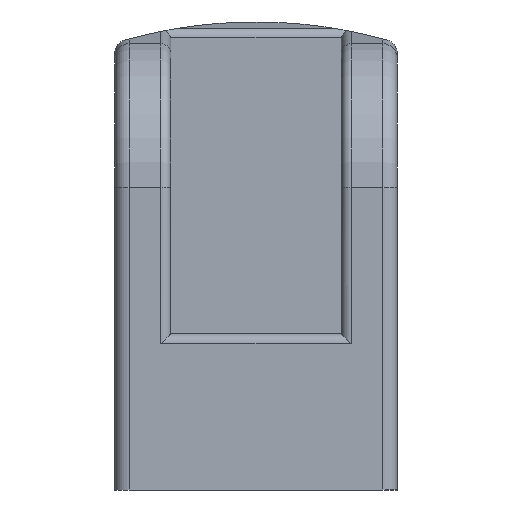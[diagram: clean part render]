
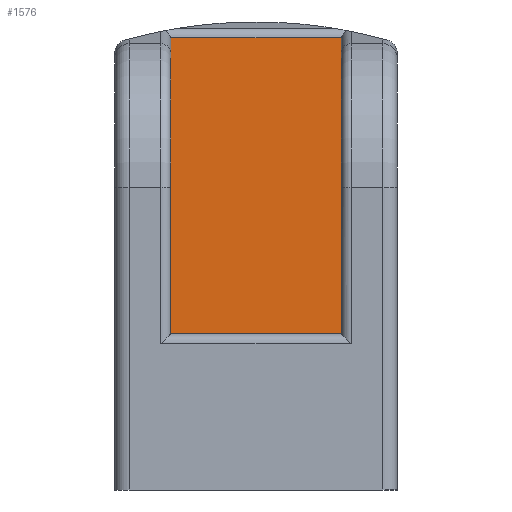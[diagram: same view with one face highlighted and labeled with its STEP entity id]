
A CAD part, front view. The second image highlights one B-rep face of the part: STEP entity #1576.
In plain terms, the highlighted planar face has unit normal (0, -1, 0).
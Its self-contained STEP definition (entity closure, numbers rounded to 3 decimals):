
#832=CARTESIAN_POINT('Vertex',(8.75,-72.,46.186)) ;
#835=CARTESIAN_POINT('Line Origine',(8.75,-72.,31.093)) ;
#839=CARTESIAN_POINT('Vertex',(8.75,-72.,16.)) ;
#997=CARTESIAN_POINT('Vertex',(-8.75,-72.,16.)) ;
#1000=CARTESIAN_POINT('Line Origine',(-8.75,-72.,31.093)) ;
#1004=CARTESIAN_POINT('Vertex',(-8.75,-72.,46.186)) ;
#1419=CARTESIAN_POINT('Line Origine',(0.,-72.,16.)) ;
#1538=CARTESIAN_POINT('Axis2P3D Location',(0.,-72.,54.956)) ;
#1543=CARTESIAN_POINT('Line Origine',(0.,-72.,46.362)) ;
#1547=CARTESIAN_POINT('Vertex',(8.765,-72.,46.362)) ;
#1549=CARTESIAN_POINT('Vertex',(-8.765,-72.,46.362)) ;
#1553=CARTESIAN_POINT('Control Point',(-8.75,-72.,46.186)) ;
#1554=CARTESIAN_POINT('Control Point',(-8.75,-72.,46.221)) ;
#1555=CARTESIAN_POINT('Control Point',(-8.752,-72.,46.257)) ;
#1556=CARTESIAN_POINT('Control Point',(-8.755,-72.,46.292)) ;
#1557=CARTESIAN_POINT('Control Point',(-8.759,-72.,46.327)) ;
#1558=CARTESIAN_POINT('Control Point',(-8.765,-72.,46.362)) ;
#1561=CARTESIAN_POINT('Control Point',(8.75,-72.,46.186)) ;
#1562=CARTESIAN_POINT('Control Point',(8.75,-72.,46.221)) ;
#1563=CARTESIAN_POINT('Control Point',(8.752,-72.,46.257)) ;
#1564=CARTESIAN_POINT('Control Point',(8.755,-72.,46.292)) ;
#1565=CARTESIAN_POINT('Control Point',(8.759,-72.,46.327)) ;
#1566=CARTESIAN_POINT('Control Point',(8.765,-72.,46.362)) ;
#836=DIRECTION('Vector Direction',(0.,0.,-1.)) ;
#1001=DIRECTION('Vector Direction',(0.,0.,-1.)) ;
#1420=DIRECTION('Vector Direction',(-1.,0.,0.)) ;
#1539=DIRECTION('Axis2P3D Direction',(0.,1.,0.)) ;
#1540=DIRECTION('Axis2P3D XDirection',(0.,0.,-1.)) ;
#1544=DIRECTION('Vector Direction',(-1.,0.,0.)) ;
#1541=AXIS2_PLACEMENT_3D('Plane Axis2P3D',#1538,#1539,#1540) ;
#1569=ORIENTED_EDGE('',*,*,#1551,.T.) ;
#1570=ORIENTED_EDGE('',*,*,#1559,.F.) ;
#1571=ORIENTED_EDGE('',*,*,#1006,.F.) ;
#1572=ORIENTED_EDGE('',*,*,#1423,.F.) ;
#1573=ORIENTED_EDGE('',*,*,#841,.T.) ;
#1574=ORIENTED_EDGE('',*,*,#1567,.F.) ;
#837=VECTOR('Line Direction',#836,1.) ;
#1002=VECTOR('Line Direction',#1001,1.) ;
#1421=VECTOR('Line Direction',#1420,1.) ;
#1545=VECTOR('Line Direction',#1544,1.) ;
#1576=ADVANCED_FACE('PartBody',(#1575),#1542,.F.) ;
#1552=B_SPLINE_CURVE_WITH_KNOTS('',5,(#1553,#1554,#1555,#1556,#1557,#1558),.UNSPECIFIED.,.F.,.U.,(6,6),(0.,0.251),.UNSPECIFIED.) ;
#1560=B_SPLINE_CURVE_WITH_KNOTS('',5,(#1561,#1562,#1563,#1564,#1565,#1566),.UNSPECIFIED.,.F.,.U.,(6,6),(0.,0.251),.UNSPECIFIED.) ;
#841=EDGE_CURVE('',#840,#833,#838,.F.) ;
#1006=EDGE_CURVE('',#998,#1005,#1003,.F.) ;
#1423=EDGE_CURVE('',#840,#998,#1422,.T.) ;
#1551=EDGE_CURVE('',#1548,#1550,#1546,.T.) ;
#1559=EDGE_CURVE('',#1005,#1550,#1552,.T.) ;
#1567=EDGE_CURVE('',#1548,#833,#1560,.F.) ;
#1568=EDGE_LOOP('',(#1569,#1570,#1571,#1572,#1573,#1574)) ;
#1575=FACE_OUTER_BOUND('',#1568,.T.) ;
#838=LINE('Line',#835,#837) ;
#1003=LINE('Line',#1000,#1002) ;
#1422=LINE('Line',#1419,#1421) ;
#1546=LINE('Line',#1543,#1545) ;
#1542=PLANE('',#1541) ;
#833=VERTEX_POINT('',#832) ;
#840=VERTEX_POINT('',#839) ;
#998=VERTEX_POINT('',#997) ;
#1005=VERTEX_POINT('',#1004) ;
#1548=VERTEX_POINT('',#1547) ;
#1550=VERTEX_POINT('',#1549) ;
